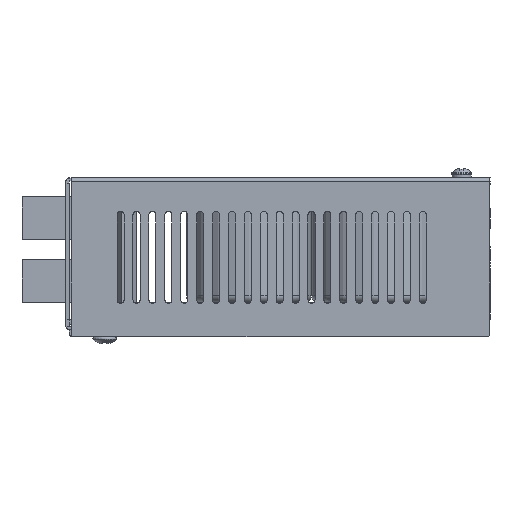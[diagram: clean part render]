
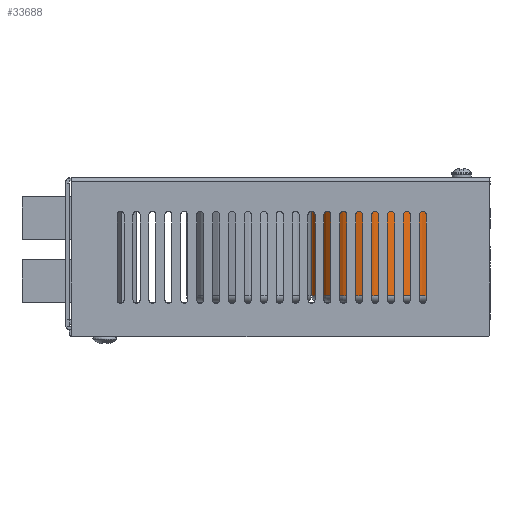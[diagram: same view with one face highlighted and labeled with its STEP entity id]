
A CAD part, front view. The second image highlights one B-rep face of the part: STEP entity #33688.
In plain terms, the highlighted cylindrical face has radius 17.65 mm (diameter 35.3 mm), a full revolution.
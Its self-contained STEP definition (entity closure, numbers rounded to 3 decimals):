
#33654=CARTESIAN_POINT('',(84.824,-106.644,11.6));
#33655=VERTEX_POINT('',#33654);
#33656=CARTESIAN_POINT('',(67.174,-106.644,11.6));
#33657=DIRECTION('',(0.0,0.0,-1.0));
#33658=DIRECTION('',(-1.0,0.0,0.0));
#33659=AXIS2_PLACEMENT_3D('',#33656,#33657,#33658);
#33660=CIRCLE('',#33659,17.65);
#33661=EDGE_CURVE('',#33655,#33655,#33660,.T.);
#33669=CARTESIAN_POINT('',(67.174,-106.644,9.6));
#33670=DIRECTION('',(0.0,0.0,1.0));
#33671=DIRECTION('',(-1.0,0.0,0.0));
#33672=AXIS2_PLACEMENT_3D('',#33669,#33670,#33671);
#33673=CYLINDRICAL_SURFACE('',#33672,17.65);
#33674=ORIENTED_EDGE('',*,*,#33661,.F.);
#33675=EDGE_LOOP('',(#33674));
#33676=FACE_OUTER_BOUND('',#33675,.T.);
#33677=CARTESIAN_POINT('',(84.824,-106.644,39.1));
#33678=VERTEX_POINT('',#33677);
#33679=CARTESIAN_POINT('',(67.174,-106.644,39.1));
#33680=DIRECTION('',(0.0,0.0,1.0));
#33681=DIRECTION('',(-1.0,0.0,0.0));
#33682=AXIS2_PLACEMENT_3D('',#33679,#33680,#33681);
#33683=CIRCLE('',#33682,17.65);
#33684=EDGE_CURVE('',#33678,#33678,#33683,.T.);
#33685=ORIENTED_EDGE('',*,*,#33684,.F.);
#33686=EDGE_LOOP('',(#33685));
#33687=FACE_BOUND('',#33686,.T.);
#33688=ADVANCED_FACE('',(#33676,#33687),#33673,.T.);
